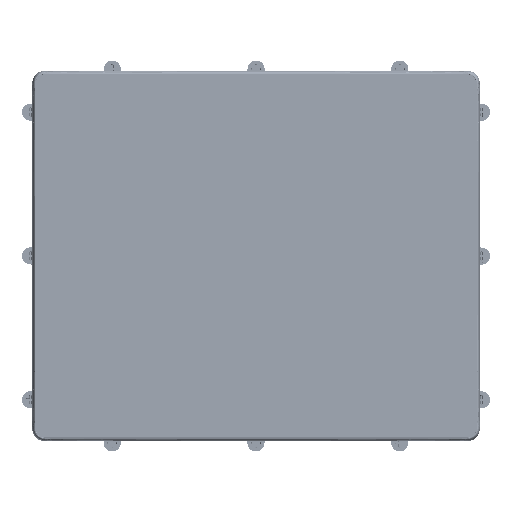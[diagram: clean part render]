
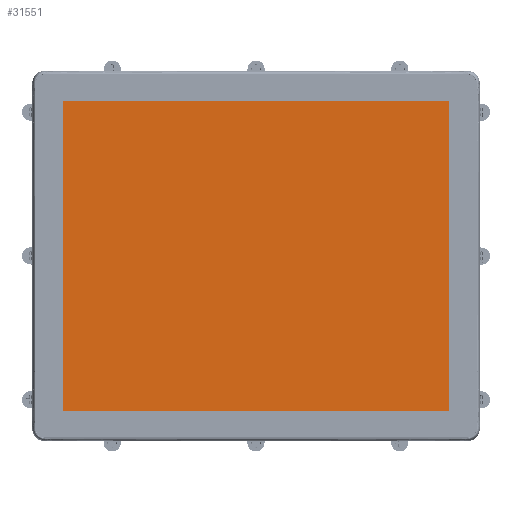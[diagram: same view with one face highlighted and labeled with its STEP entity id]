
A CAD part, top view. The second image highlights one B-rep face of the part: STEP entity #31551.
In plain terms, the highlighted planar face has unit normal (0, 0, 1).
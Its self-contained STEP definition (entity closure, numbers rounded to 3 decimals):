
#3313=DIRECTION('',(0.,-1.,0.));
#3314=VECTOR('',#3313,271.34);
#3315=CARTESIAN_POINT('',(-169.46,135.67,5.94));
#3316=LINE('',#3315,#3314);
#3317=DIRECTION('',(-1.,0.,0.));
#3318=VECTOR('',#3317,338.92);
#3319=CARTESIAN_POINT('',(169.46,135.67,5.94));
#3320=LINE('',#3319,#3318);
#3321=DIRECTION('',(0.,1.,0.));
#3322=VECTOR('',#3321,271.34);
#3323=CARTESIAN_POINT('',(169.46,-135.67,5.94));
#3324=LINE('',#3323,#3322);
#3325=DIRECTION('',(1.,0.,0.));
#3326=VECTOR('',#3325,338.92);
#3327=CARTESIAN_POINT('',(-169.46,-135.67,5.94));
#3328=LINE('',#3327,#3326);
#27426=CARTESIAN_POINT('',(-169.46,135.67,5.94));
#27428=VERTEX_POINT('',#27426);
#27431=CARTESIAN_POINT('',(-169.46,-135.67,5.94));
#27433=VERTEX_POINT('',#27431);
#27434=CARTESIAN_POINT('',(169.46,135.67,5.94));
#27436=VERTEX_POINT('',#27434);
#27438=CARTESIAN_POINT('',(169.46,-135.67,5.94));
#27440=VERTEX_POINT('',#27438);
#31540=CARTESIAN_POINT('',(0.,0.,5.94));
#31541=DIRECTION('',(0.,0.,1.));
#31542=DIRECTION('',(1.,0.,0.));
#31543=AXIS2_PLACEMENT_3D('',#31540,#31541,#31542);
#31544=PLANE('',#31543);
#31545=ORIENTED_EDGE('',*,*,#31463,.F.);
#31546=ORIENTED_EDGE('',*,*,#31487,.F.);
#31547=ORIENTED_EDGE('',*,*,#31506,.F.);
#31548=ORIENTED_EDGE('',*,*,#31526,.F.);
#31549=EDGE_LOOP('',(#31545,#31546,#31547,#31548));
#31550=FACE_OUTER_BOUND('',#31549,.F.);
#31551=ADVANCED_FACE('',(#31550),#31544,.T.);
#31463=EDGE_CURVE('',#27428,#27433,#3316,.T.);
#31487=EDGE_CURVE('',#27436,#27428,#3320,.T.);
#31506=EDGE_CURVE('',#27440,#27436,#3324,.T.);
#31526=EDGE_CURVE('',#27433,#27440,#3328,.T.);
